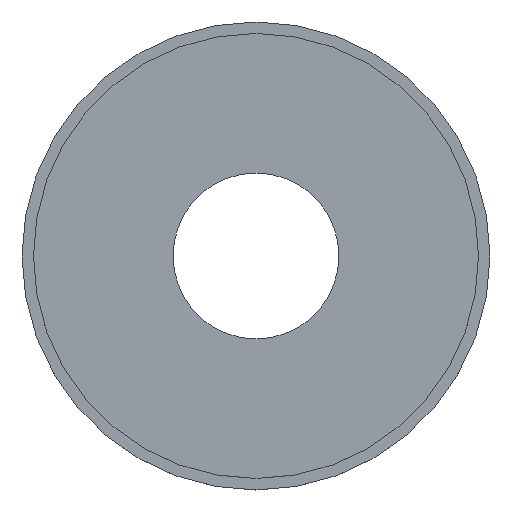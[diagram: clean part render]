
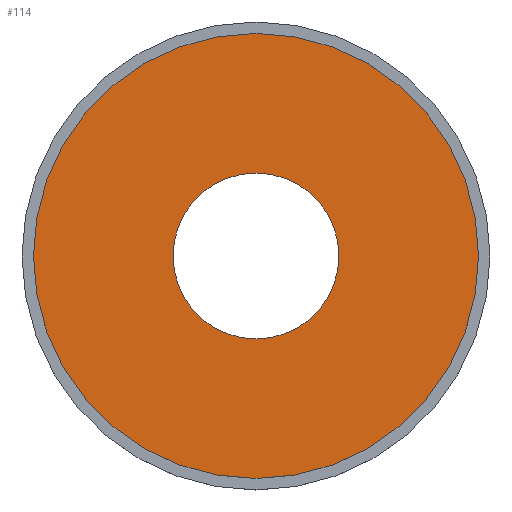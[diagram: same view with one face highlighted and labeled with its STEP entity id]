
A CAD part, top view. The second image highlights one B-rep face of the part: STEP entity #114.
In plain terms, the highlighted planar face has unit normal (0, 0, 1).
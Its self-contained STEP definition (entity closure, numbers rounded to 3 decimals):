
#96 = VERTEX_POINT('',#97);
#97 = CARTESIAN_POINT('',(33.85,17.35,2.15)
  );
#102 = EDGE_CURVE('',#96,#96,#103,.T.);
#103 = CIRCLE('',#104,16.5);
#104 = AXIS2_PLACEMENT_3D('',#105,#106,#107);
#105 = CARTESIAN_POINT('',(17.35,17.35,2.15
    ));
#106 = DIRECTION('',(0.,0.,1.));
#107 = DIRECTION('',(1.,0.,0.));
#114 = ADVANCED_FACE('',(#115,#118),#129,.T.);
#115 = FACE_BOUND('',#116,.T.);
#116 = EDGE_LOOP('',(#117));
#117 = ORIENTED_EDGE('',*,*,#102,.T.);
#118 = FACE_BOUND('',#119,.T.);
#119 = EDGE_LOOP('',(#120));
#120 = ORIENTED_EDGE('',*,*,#121,.F.);
#121 = EDGE_CURVE('',#122,#122,#124,.T.);
#122 = VERTEX_POINT('',#123);
#123 = CARTESIAN_POINT('',(23.5,17.35,2.15
    ));
#124 = CIRCLE('',#125,6.15);
#125 = AXIS2_PLACEMENT_3D('',#126,#127,#128);
#126 = CARTESIAN_POINT('',(17.35,17.35,2.15
    ));
#127 = DIRECTION('',(0.,0.,1.));
#128 = DIRECTION('',(1.,0.,0.));
#129 = PLANE('',#130);
#130 = AXIS2_PLACEMENT_3D('',#131,#132,#133);
#131 = CARTESIAN_POINT('',(17.35,17.35,2.15
    ));
#132 = DIRECTION('',(0.,0.,1.));
#133 = DIRECTION('',(1.,0.,0.));
